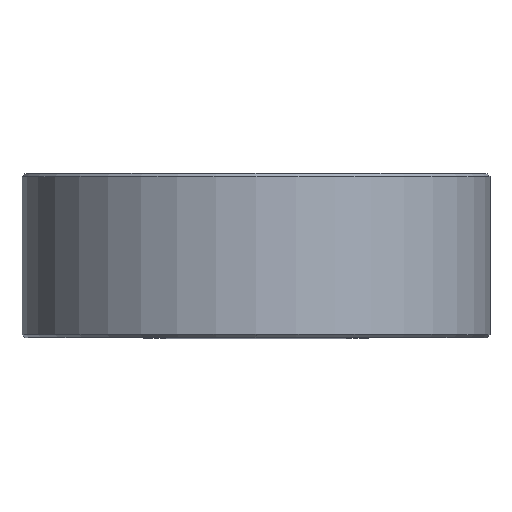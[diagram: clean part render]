
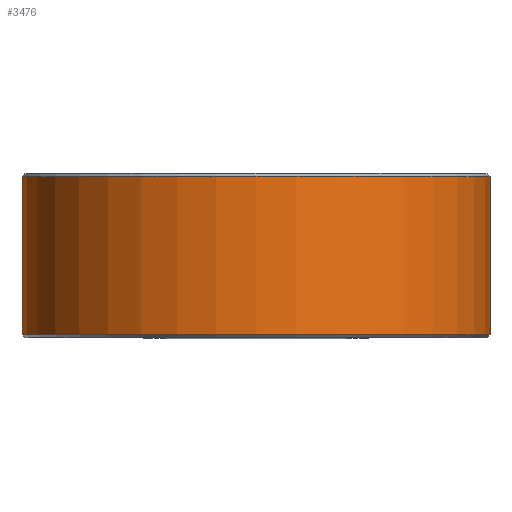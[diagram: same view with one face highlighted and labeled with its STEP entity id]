
A CAD part, top view. The second image highlights one B-rep face of the part: STEP entity #3476.
In plain terms, the highlighted cylindrical face has radius 10 mm (diameter 20 mm), a partial arc.
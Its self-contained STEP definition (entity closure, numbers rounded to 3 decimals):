
#141 = DIRECTION ( 'NONE',  ( 0., 0., 1. ) ) ;
#282 = CARTESIAN_POINT ( 'NONE',  ( 0., 0.125, 0. ) ) ;
#437 = CARTESIAN_POINT ( 'NONE',  ( 0., 0.125, 10. ) ) ;
#440 = DIRECTION ( 'NONE',  ( 0., -1., 0. ) ) ;
#465 = CARTESIAN_POINT ( 'NONE',  ( -5.385, 7., -8.427 ) ) ;
#503 = CARTESIAN_POINT ( 'NONE',  ( -5.385, 6.875, -8.427 ) ) ;
#578 = VECTOR ( 'NONE', #1237, 1000. ) ;
#657 = CARTESIAN_POINT ( 'NONE',  ( 5.385, 7., -8.427 ) ) ;
#660 = EDGE_CURVE ( 'NONE', #6612, #5030, #8034, .T. ) ;
#696 = ORIENTED_EDGE ( 'NONE', *, *, #3528, .T. ) ;
#824 = DIRECTION ( 'NONE',  ( 0., 1., 0. ) ) ;
#942 = VERTEX_POINT ( 'NONE', #503 ) ;
#1108 = VERTEX_POINT ( 'NONE', #7310 ) ;
#1169 = CYLINDRICAL_SURFACE ( 'NONE', #3821, 10. ) ;
#1237 = DIRECTION ( 'NONE',  ( 0., 1., 0. ) ) ;
#1255 = CIRCLE ( 'NONE', #6543, 10. ) ;
#1418 = DIRECTION ( 'NONE',  ( 0., 1., 0. ) ) ;
#1528 = ORIENTED_EDGE ( 'NONE', *, *, #3948, .T. ) ;
#1550 = LINE ( 'NONE', #657, #578 ) ;
#1951 = LINE ( 'NONE', #465, #2339 ) ;
#2317 = DIRECTION ( 'NONE',  ( 0., -1., 0. ) ) ;
#2327 = ORIENTED_EDGE ( 'NONE', *, *, #660, .T. ) ;
#2339 = VECTOR ( 'NONE', #6230, 1000. ) ;
#2910 = EDGE_CURVE ( 'NONE', #1108, #6612, #5931, .T. ) ;
#2931 = CARTESIAN_POINT ( 'NONE',  ( 0., 6.875, 0. ) ) ;
#3254 = CARTESIAN_POINT ( 'NONE',  ( 5.385, 0.125, -8.427 ) ) ;
#3476 = ADVANCED_FACE ( 'NONE', ( #6234 ), #1169, .T. ) ;
#3483 = AXIS2_PLACEMENT_3D ( 'NONE', #282, #824, #7184 ) ;
#3528 = EDGE_CURVE ( 'NONE', #5030, #6264, #1550, .T. ) ;
#3615 = DIRECTION ( 'NONE',  ( 0., 0., 1. ) ) ;
#3821 = AXIS2_PLACEMENT_3D ( 'NONE', #6776, #2317, #7464 ) ;
#3948 = EDGE_CURVE ( 'NONE', #6264, #942, #1255, .T. ) ;
#4044 = EDGE_CURVE ( 'NONE', #942, #1108, #1951, .T. ) ;
#4586 = CARTESIAN_POINT ( 'NONE',  ( 5.385, 6.875, -8.427 ) ) ;
#5030 = VERTEX_POINT ( 'NONE', #3254 ) ;
#5200 = EDGE_LOOP ( 'NONE', ( #7193, #7009, #2327, #696, #1528 ) ) ;
#5931 = CIRCLE ( 'NONE', #3483, 10. ) ;
#6230 = DIRECTION ( 'NONE',  ( 0., -1., 0. ) ) ;
#6234 = FACE_OUTER_BOUND ( 'NONE', #5200, .T. ) ;
#6264 = VERTEX_POINT ( 'NONE', #4586 ) ;
#6516 = CARTESIAN_POINT ( 'NONE',  ( 0., 0.125, 0. ) ) ;
#6543 = AXIS2_PLACEMENT_3D ( 'NONE', #2931, #440, #3615 ) ;
#6612 = VERTEX_POINT ( 'NONE', #437 ) ;
#6776 = CARTESIAN_POINT ( 'NONE',  ( 0., 7., 0. ) ) ;
#7009 = ORIENTED_EDGE ( 'NONE', *, *, #2910, .T. ) ;
#7130 = AXIS2_PLACEMENT_3D ( 'NONE', #6516, #1418, #141 ) ;
#7184 = DIRECTION ( 'NONE',  ( 0., 0., 1. ) ) ;
#7193 = ORIENTED_EDGE ( 'NONE', *, *, #4044, .T. ) ;
#7310 = CARTESIAN_POINT ( 'NONE',  ( -5.385, 0.125, -8.427 ) ) ;
#7464 = DIRECTION ( 'NONE',  ( 0., 0., -1. ) ) ;
#8034 = CIRCLE ( 'NONE', #7130, 10. ) ;
